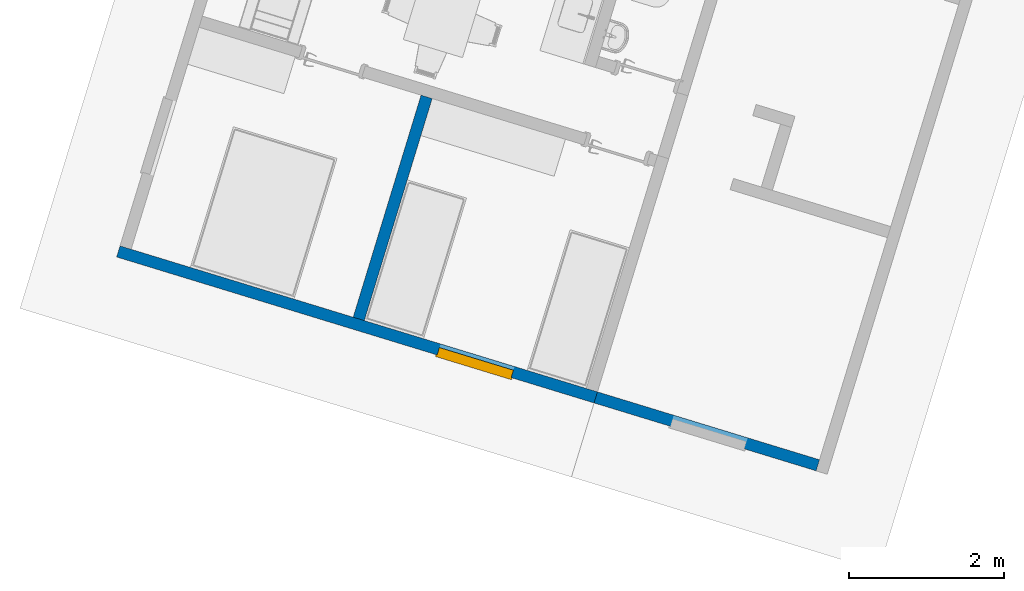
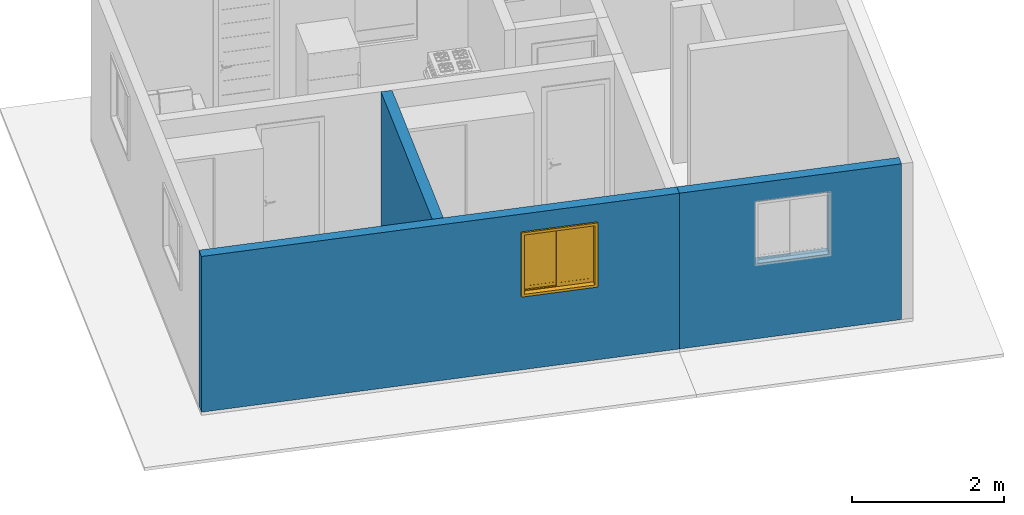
# One storey, part 3 of 13: 3 walls, 1 window, 2 openings.
"""IFC2X3 building model written with IfcOpenShell, lengths in millimetres."""

from ifc_helpers import new_model, entity, si_unit, converted_unit, derived_unit, money_unit, direction, frame, origin_with_axes, place, context, subcontext, project, spatial, open_shell, faceted_brep, surface_model, material, type_object, element, fill, save


model = new_model("IFC2X3")

# Units and contexts
model_context = context("Model", 3, precision=0.01, world=origin_with_axes(), true_north=direction((0.0, 1.0)))
body_context = subcontext(model_context, "Body", "Model", "MODEL_VIEW")
ifc_project = project(units=[si_unit("LENGTHUNIT", "METRE", prefix="MILLI"), si_unit("AREAUNIT", "SQUARE_METRE"), si_unit("VOLUMEUNIT", "CUBIC_METRE"), converted_unit("PLANEANGLEUNIT", "DEGREE", entity("IfcPlaneAngleMeasure", 0.0174532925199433), si_unit("PLANEANGLEUNIT", "RADIAN"), dimensions=[0, 0, 0, 0, 0, 0, 0]), money_unit("USD"), converted_unit("TIMEUNIT", "Year", entity("IfcTimeMeasure", 31557600.0), si_unit("TIMEUNIT", "SECOND"), dimensions=[0, 0, 1, 0, 0, 0, 0]), si_unit("MASSUNIT", "GRAM", prefix="KILO"), si_unit("THERMODYNAMICTEMPERATUREUNIT", "DEGREE_CELSIUS"), si_unit("LUMINOUSINTENSITYUNIT", "LUMEN"), si_unit("ENERGYUNIT", "JOULE", prefix="MEGA"), derived_unit("THERMALCONDUCTANCEUNIT", [(si_unit("POWERUNIT", "WATT"), 1), (si_unit("LENGTHUNIT", "METRE"), -1), (si_unit("THERMODYNAMICTEMPERATUREUNIT", "KELVIN"), -1)]), derived_unit("SPECIFICHEATCAPACITYUNIT", [(si_unit("ENERGYUNIT", "JOULE"), 1), (si_unit("MASSUNIT", "GRAM", prefix="KILO"), -1), (si_unit("THERMODYNAMICTEMPERATUREUNIT", "KELVIN"), -1)]), derived_unit("MASSDENSITYUNIT", [(si_unit("MASSUNIT", "GRAM", prefix="KILO"), 1), (si_unit("VOLUMEUNIT", "CUBIC_METRE"), -1)])], contexts=[model_context])

# Site, building, storey
site_placement = place(None, frame((0.0, 0.0, 0.0), z_axis=(0.0, 0.0, 1.0), x_axis=(0.9563047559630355, -0.2923717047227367, 0.0)))
site = spatial("IfcSite", under=ifc_project, at=site_placement, Name="Site", CompositionType="ELEMENT")
building_placement = place(site_placement, origin_with_axes())
building = spatial("IfcBuilding", under=site, at=building_placement, Name="Casa Térrea Isolada", CompositionType="ELEMENT")
storey_placement = place(building_placement, origin_with_axes())
storey = spatial("IfcBuildingStorey", under=building, at=storey_placement, Name="Terreo", CompositionType="ELEMENT", Elevation=0.0)

# Wall
ifc_material = material(Name="Bloco de Concreto - Estrutural")
wall_type = type_object("IfcWallType", Name="Bloco de Concreto - Estrutural 150", PredefinedType="NOTDEFINED")
wall_1_placement = place(storey_placement, frame((3225.002922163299, 74.99858220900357, 0.0), z_axis=(0.0, 0.0, 1.0), x_axis=(-4.610697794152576e-07, 0.9999999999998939, 0.0)))
element("IfcWall", 1, at=wall_1_placement, inside=storey, type_object=wall_type, material=ifc_material, Name="Parede 06", context=body_context, shape_type="Brep", body=[
    faceted_brep([(3075.000608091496, -75.00000000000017, 2500.0), (3075.000608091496, 75.00000000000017, 2500.0), (75.00000000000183, 74.99999999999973, 2500.0), (75.0000000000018, -74.99999999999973, 2500.0), (3075.000608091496, -75.00000000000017, 0.0), (3075.000608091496, 74.99999999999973, 0.0), (75.00000000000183, 74.99999999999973, 0.0), (75.0000000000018, -75.00000000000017, 0.0)], [[[0, 1, 2, 3]], [[1, 0, 4, 5]], [[1, 5, 6, 2]], [[7, 3, 2, 6]], [[4, 0, 3, 7]], [[5, 4, 7, 6]]]),
])

# Wall, opening
wall_2_placement = place(storey_placement, frame((9525.00288190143, 75.00148694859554, 0.0), z_axis=(0.0, 0.0, 1.0), x_axis=(-0.9999999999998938, -4.610697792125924e-07, 0.0)))
wall_2 = element("IfcWall", 2, at=wall_2_placement, inside=storey, type_object=wall_type, material=ifc_material, Name="Parede 16", context=body_context, shape_type="Brep", body=[
    faceted_brep([(3075.000000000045, 74.99999999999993, 0.0), (74.99999999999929, 75.00000000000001, 0.0), (74.99999999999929, 75.00000000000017, 2500.0), (3075.000000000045, 75.00000000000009, 2500.0), (2045.000092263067, 75.00000000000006, 1200.0), (2045.000092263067, 75.00000000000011, 2200.0), (1045.00009226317, 75.00000000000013, 2200.0), (1045.00009226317, 75.00000000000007, 1200.0), (3075.000000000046, -75.00000000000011, 0.0), (74.99999999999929, -74.99999999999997, 0.0), (74.99999999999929, -74.99999999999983, 2500.0), (3075.000000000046, -74.99999999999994, 2500.0), (2045.000092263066, -74.99999999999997, 1200.0), (2045.000092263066, -74.99999999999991, 2200.0), (1045.000092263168, -74.99999999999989, 2200.0), (1045.000092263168, -74.99999999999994, 1200.0)], [[[0, 1, 2, 3], [4, 5, 6, 7]], [[8, 9, 1, 0]], [[2, 1, 9, 10]], [[3, 2, 10, 11]], [[8, 0, 3, 11]], [[5, 4, 12, 13]], [[14, 6, 5, 13]], [[15, 7, 6, 14]], [[4, 7, 15, 12]], [[11, 10, 9, 8], [15, 14, 13, 12]]]),
])
opening_1_placement = place(wall_2_placement, frame((1545.000092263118, 0.0, 1200.0), z_axis=(0.0, 0.0, 1.0), x_axis=(1.0, 0.0, 0.0)))
element("IfcOpeningElement", 3, at=opening_1_placement, cuts=wall_2, Name="J07", context=body_context, shape_type="Brep", body=[
    faceted_brep([(514.9999999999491, 76.00141778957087, -15.00000000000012), (-514.9999999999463, 76.0014177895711, -15.00000000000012), (-514.9999999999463, 76.00141778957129, 1015.0), (514.9999999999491, 76.00141778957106, 1015.0), (514.9999999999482, 74.99999999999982, -15.00000000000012), (-514.9999999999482, 75.00000000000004, -15.00000000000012), (-514.9999999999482, 75.00000000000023, 1015.0), (514.9999999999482, 75.00000000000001, 1015.0), (-499.9999999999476, 75.00000000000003, 0.0), (-499.9999999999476, 75.00000000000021, 1000.0), (499.9999999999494, 75.00000000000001, 1000.0), (499.9999999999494, 74.99999999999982, 0.0), (-499.9999999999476, -24.99999999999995, 0.0), (-499.9999999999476, -24.9999999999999, 1000.0), (-499.9999999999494, -76.00141778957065, 1000.0), (499.9999999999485, -76.00141778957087, 1000.0), (499.9999999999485, -25.00000000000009, 1000.0), (499.9999999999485, -25.00000000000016, 0.0), (499.9999999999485, -76.00141778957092, 0.0), (-499.9999999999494, -76.0014177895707, 0.0)], [[[0, 1, 2, 3]], [[4, 5, 1, 0]], [[5, 6, 2, 1]], [[6, 7, 3, 2]], [[7, 4, 0, 3]], [[6, 5, 4, 7], [8, 9, 10, 11]], [[9, 8, 12, 13]], [[10, 9, 13, 14, 15, 16]], [[11, 10, 16, 17]], [[8, 11, 17, 18, 19, 12]], [[13, 12, 19, 14]], [[14, 19, 18, 15]], [[17, 16, 15, 18]]]),
])

# Wall, opening, window
wall_3_placement = place(storey_placement, frame((6375.002881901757, 75.00003457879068, 0.0), z_axis=(0.0, 0.0, 1.0), x_axis=(-0.9999999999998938, -4.610697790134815e-07, 0.0)))
wall_3 = element("IfcWall", 4, at=wall_3_placement, inside=storey, type_object=wall_type, material=ifc_material, Name="Parede 04", context=body_context, shape_type="Brep", body=[
    faceted_brep([(-75.00000000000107, 75.00000000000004, 0.0), (-75.00000000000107, 75.00000000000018, 2500.0), (6374.999942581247, 74.99999999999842, 2500.0), (6374.999942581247, 74.99999999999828, 0.0), (2045.000069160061, 74.99999999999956, 1200.0), (2045.000069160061, 74.9999999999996, 2200.0), (1045.000069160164, 74.99999999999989, 2200.0), (1045.000069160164, 74.99999999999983, 1200.0), (-75.00000000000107, -75.0, 0.0), (-75.00000000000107, -74.99999999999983, 2500.0), (6374.999942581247, -75.0000000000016, 2500.0), (6374.999942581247, -75.00000000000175, 0.0), (2045.00006916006, -25.00000000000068, 1200.0), (2045.00006916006, -25.0000000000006, 2200.0), (1045.000069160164, -25.00000000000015, 2200.0), (1045.000069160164, -25.0000000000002, 1200.0), (1045.000069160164, -75.00000000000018, 1200.0), (1045.000069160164, -75.00000000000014, 2200.0), (2045.00006916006, -75.00000000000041, 2200.0), (2045.00006916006, -75.00000000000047, 1200.0)], [[[0, 1, 2, 3], [4, 5, 6, 7]], [[1, 0, 8, 9]], [[1, 9, 10, 2]], [[11, 3, 2, 10]], [[8, 0, 3, 11]], [[12, 13, 5, 4]], [[13, 14, 6, 5]], [[14, 15, 7, 6]], [[15, 12, 4, 7]], [[9, 8, 11, 10], [16, 17, 18, 19]], [[13, 12, 19, 18]], [[14, 13, 18, 17]], [[15, 14, 17, 16]], [[12, 15, 16, 19]]]),
])
opening_2_placement = place(wall_3_placement, frame((1545.000069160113, 0.0, 1200.0), z_axis=(0.0, 0.0, 1.0), x_axis=(1.0, 0.0, 0.0)))
opening_2 = element("IfcOpeningElement", 5, at=opening_2_placement, cuts=wall_3, Name="J05", context=body_context, shape_type="Brep", body=[
    faceted_brep([(514.9999999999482, 76.00290473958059, -15.00000000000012), (-514.9999999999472, 76.00290473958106, -15.00000000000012), (-514.9999999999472, 76.00290473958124, 1015.0), (514.9999999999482, 76.00290473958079, 1015.0), (514.9999999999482, 74.99999999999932, -15.00000000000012), (-514.9999999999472, 74.99999999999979, -15.00000000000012), (-514.9999999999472, 74.99999999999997, 1015.0), (514.9999999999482, 74.99999999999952, 1015.0), (-499.9999999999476, 74.99999999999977, 0.0), (-499.9999999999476, 74.99999999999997, 1000.0), (499.9999999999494, 74.99999999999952, 1000.0), (499.9999999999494, 74.99999999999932, 0.0), (-499.9999999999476, -25.0000000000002, 0.0), (-499.9999999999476, -25.00000000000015, 1000.0), (-499.9999999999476, -76.0029047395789, 1000.0), (499.9999999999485, -76.00290473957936, 1000.0), (499.9999999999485, -25.0000000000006, 1000.0), (499.9999999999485, -25.00000000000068, 0.0), (499.9999999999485, -76.00290473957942, 0.0), (-499.9999999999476, -76.00290473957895, 0.0)], [[[0, 1, 2, 3]], [[4, 5, 1, 0]], [[5, 6, 2, 1]], [[6, 7, 3, 2]], [[7, 4, 0, 3]], [[6, 5, 4, 7], [8, 9, 10, 11]], [[9, 8, 12, 13]], [[10, 9, 13, 14, 15, 16]], [[11, 10, 16, 17]], [[8, 11, 17, 18, 19, 12]], [[13, 12, 19, 14]], [[14, 19, 18, 15]], [[17, 16, 15, 18]]]),
])
window_style = type_object("IfcWindowStyle", Name="Janela 26", ConstructionType="NOTDEFINED", OperationType="DOUBLE_PANEL_VERTICAL", ParameterTakesPrecedence=False, Sizeable=False)
window_placement = place(opening_2_placement, frame((499.9999999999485, 0.0, 0.0), z_axis=(0.0, 0.0, 1.0), x_axis=(-1.0, 0.0, 0.0)))
window = element("IfcWindow", 6, at=window_placement, inside=storey, type_object=window_style, Name="J05", OverallHeight=1000.0, OverallWidth=1000.0, context=body_context, shape_type="SurfaceModel", body=[
    faceted_brep([(0.0, -24.99999999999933, 0.0), (999.9999999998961, -24.99999999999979, 0.0), (999.9999999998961, -74.99999999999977, 0.0), (0.0, -74.99999999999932, 0.0), (0.0, -24.99999999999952, 1000.0), (999.9999999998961, -24.99999999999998, 1000.0), (25.00000000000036, -24.99999999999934, 24.99999999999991), (974.9999999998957, -24.99999999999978, 24.99999999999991), (974.9999999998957, -24.99999999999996, 975.0000000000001), (25.00000000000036, -24.99999999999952, 975.0000000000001), (999.9999999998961, -74.99999999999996, 1000.0), (0.0, -74.9999999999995, 1000.0), (24.99999999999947, -74.99999999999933, 24.99999999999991), (24.99999999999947, -74.99999999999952, 975.0000000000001), (974.9999999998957, -74.99999999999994, 975.0000000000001), (974.9999999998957, -74.99999999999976, 24.99999999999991)], [[[0, 1, 2, 3]], [[0, 4, 5, 1], [6, 7, 8, 9]], [[1, 5, 10, 2]], [[3, 2, 10, 11], [12, 13, 14, 15]], [[4, 0, 3, 11]], [[5, 4, 11, 10]], [[7, 6, 12, 15]], [[8, 7, 15, 14]], [[9, 8, 14, 13]], [[6, 9, 13, 12]]]),
    faceted_brep([(-15.00000000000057, -99.99999999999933, -15.00000000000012), (-14.99999999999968, -74.99999999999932, -15.00000000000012), (24.99999999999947, -74.99999999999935, 24.99999999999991), (24.99999999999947, -99.99999999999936, 24.99999999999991), (-15.00000000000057, -99.99999999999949, 1015.0), (-14.99999999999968, -74.9999999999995, 1015.0), (24.99999999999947, -74.99999999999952, 975.0000000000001), (24.99999999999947, -99.99999999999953, 975.0000000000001)], [[[0, 1, 2, 3]], [[4, 5, 1, 0]], [[1, 5, 6, 2]], [[3, 2, 6, 7]], [[0, 3, 7, 4]], [[7, 6, 5, 4]]]),
    faceted_brep([(1014.999999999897, -99.99999999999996, 1015.0), (1014.999999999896, -74.99999999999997, 1015.0), (974.9999999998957, -74.99999999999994, 975.0000000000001), (974.9999999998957, -99.99999999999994, 975.0000000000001), (1014.999999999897, -99.9999999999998, -15.00000000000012), (1014.999999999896, -74.99999999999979, -15.00000000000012), (974.9999999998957, -74.99999999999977, 24.99999999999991), (974.9999999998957, -99.99999999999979, 24.99999999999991)], [[[0, 1, 2, 3]], [[4, 5, 1, 0]], [[1, 5, 6, 2]], [[3, 2, 6, 7]], [[0, 3, 7, 4]], [[7, 6, 5, 4]]]),
    faceted_brep([(1014.999999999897, -99.9999999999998, -15.00000000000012), (1014.999999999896, -74.99999999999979, -15.00000000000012), (974.9999999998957, -74.99999999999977, 24.99999999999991), (974.9999999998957, -99.99999999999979, 24.99999999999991), (-15.00000000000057, -99.99999999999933, -15.00000000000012), (-14.99999999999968, -74.99999999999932, -15.00000000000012), (24.99999999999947, -74.99999999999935, 24.99999999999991), (24.99999999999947, -99.99999999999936, 24.99999999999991)], [[[0, 1, 2, 3]], [[4, 5, 1, 0]], [[1, 5, 6, 2]], [[3, 2, 6, 7]], [[0, 3, 7, 4]], [[7, 6, 5, 4]]]),
    faceted_brep([(-15.00000000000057, -99.99999999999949, 1015.0), (-14.99999999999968, -74.9999999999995, 1015.0), (24.99999999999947, -74.99999999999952, 975.0000000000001), (24.99999999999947, -99.99999999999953, 975.0000000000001), (1014.999999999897, -99.99999999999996, 1015.0), (1014.999999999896, -74.99999999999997, 1015.0), (974.9999999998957, -74.99999999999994, 975.0000000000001), (974.9999999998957, -99.99999999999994, 975.0000000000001)], [[[0, 1, 2, 3]], [[4, 5, 1, 0]], [[1, 5, 6, 2]], [[3, 2, 6, 7]], [[0, 3, 7, 4]], [[7, 6, 5, 4]]]),
    faceted_brep([(35.00000000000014, -24.99999999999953, 964.9999999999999), (35.00000000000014, 25.00000000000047, 964.9999999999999), (0.0, 25.00000000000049, 964.9999999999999), (0.0, -24.99999999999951, 964.9999999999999), (35.00000000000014, -24.99999999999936, 34.99999999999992), (35.00000000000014, 25.00000000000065, 34.99999999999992), (0.0, 25.00000000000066, 34.99999999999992), (0.0, -24.99999999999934, 34.99999999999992)], [[[0, 1, 2, 3]], [[4, 5, 1, 0]], [[1, 5, 6, 2]], [[3, 2, 6, 7]], [[0, 3, 7, 4]], [[7, 6, 5, 4]]]),
    faceted_brep([(964.9999999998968, -24.99999999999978, 34.99999999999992), (964.9999999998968, 25.00000000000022, 34.99999999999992), (999.9999999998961, 25.0000000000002, 34.99999999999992), (999.9999999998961, -24.9999999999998, 34.99999999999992), (964.9999999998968, -24.99999999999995, 964.9999999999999), (964.9999999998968, 25.00000000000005, 964.9999999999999), (999.9999999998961, 25.00000000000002, 964.9999999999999), (999.9999999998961, -24.99999999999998, 964.9999999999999)], [[[0, 1, 2, 3]], [[4, 5, 1, 0]], [[1, 5, 6, 2]], [[3, 2, 6, 7]], [[0, 3, 7, 4]], [[7, 6, 5, 4]]]),
    faceted_brep([(35.00000000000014, -24.99999999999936, 34.99999999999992), (35.00000000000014, 25.00000000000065, 34.99999999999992), (0.0, 25.00000000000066, 34.99999999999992), (0.0, -24.99999999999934, 34.99999999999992), (964.9999999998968, -24.99999999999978, 34.99999999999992), (964.9999999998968, 25.00000000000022, 34.99999999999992), (999.9999999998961, 25.0000000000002, 34.99999999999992), (999.9999999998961, 25.0000000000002, 0.0), (0.0, 25.00000000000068, 0.0), (0.0, -24.99999999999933, 0.0), (999.9999999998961, -24.99999999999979, 0.0), (999.9999999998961, -24.9999999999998, 34.99999999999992)], [[[0, 1, 2, 3]], [[4, 5, 1, 0]], [[1, 5, 6, 7, 8, 2]], [[3, 2, 8, 9]], [[0, 3, 9, 10, 11, 4]], [[11, 6, 5, 4]], [[10, 7, 6, 11]], [[9, 8, 7, 10]]]),
    faceted_brep([(964.9999999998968, -24.99999999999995, 964.9999999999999), (964.9999999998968, 25.00000000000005, 964.9999999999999), (999.9999999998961, 25.00000000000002, 964.9999999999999), (999.9999999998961, -24.99999999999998, 964.9999999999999), (35.00000000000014, -24.99999999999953, 964.9999999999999), (35.00000000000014, 25.00000000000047, 964.9999999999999), (0.0, 25.00000000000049, 964.9999999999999), (0.0, 25.00000000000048, 1000.0), (999.9999999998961, 25.00000000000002, 1000.0), (999.9999999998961, -24.99999999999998, 1000.0), (0.0, -24.99999999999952, 1000.0), (0.0, -24.99999999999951, 964.9999999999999)], [[[0, 1, 2, 3]], [[4, 5, 1, 0]], [[1, 5, 6, 7, 8, 2]], [[3, 2, 8, 9]], [[0, 3, 9, 10, 11, 4]], [[11, 6, 5, 4]], [[10, 7, 6, 11]], [[9, 8, 7, 10]]]),
    faceted_brep([(524.9999999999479, -24.99999999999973, 915.0), (524.9999999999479, 0.0, 915.0), (474.9999999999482, 0.0, 915.0), (474.9999999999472, -24.99999999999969, 915.0), (524.9999999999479, -24.99999999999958, 84.99999999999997), (524.9999999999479, 0.0, 84.99999999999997), (474.9999999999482, 0.0, 84.99999999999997), (474.9999999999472, -24.99999999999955, 84.99999999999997)], [[[0, 1, 2, 3]], [[4, 5, 1, 0]], [[1, 5, 6, 2]], [[3, 2, 6, 7]], [[0, 3, 7, 4]], [[7, 6, 5, 4]]]),
    faceted_brep([(914.999999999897, -24.99999999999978, 84.99999999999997), (914.9999999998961, 0.0, 84.99999999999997), (964.9999999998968, 0.0, 84.99999999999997), (964.9999999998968, -24.9999999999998, 84.99999999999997), (914.999999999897, -24.99999999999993, 915.0), (914.9999999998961, 0.0, 915.0), (964.9999999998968, 0.0, 915.0), (964.9999999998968, -24.99999999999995, 915.0)], [[[0, 1, 2, 3]], [[4, 5, 1, 0]], [[1, 5, 6, 2]], [[3, 2, 6, 7]], [[0, 3, 7, 4]], [[7, 6, 5, 4]]]),
    faceted_brep([(964.9999999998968, -24.99999999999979, 34.99999999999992), (964.9999999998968, 0.0, 34.99999999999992), (964.9999999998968, 0.0, 84.99999999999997), (964.9999999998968, -24.9999999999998, 84.99999999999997), (474.9999999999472, -24.99999999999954, 34.99999999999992), (474.9999999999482, 0.0, 34.99999999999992), (474.9999999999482, 0.0, 84.99999999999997), (524.9999999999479, 0.0, 84.99999999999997), (914.9999999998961, 0.0, 84.99999999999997), (914.999999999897, -24.99999999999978, 84.99999999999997), (524.9999999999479, -24.99999999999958, 84.99999999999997), (474.9999999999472, -24.99999999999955, 84.99999999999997)], [[[0, 1, 2, 3]], [[4, 5, 1, 0]], [[1, 5, 6, 7, 8, 2]], [[3, 2, 8, 9]], [[0, 3, 9, 10, 11, 4]], [[11, 6, 5, 4]], [[10, 7, 6, 11]], [[9, 8, 7, 10]]]),
    faceted_brep([(474.9999999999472, -24.99999999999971, 964.9999999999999), (474.9999999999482, 0.0, 964.9999999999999), (474.9999999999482, 0.0, 915.0), (474.9999999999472, -24.99999999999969, 915.0), (964.9999999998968, -24.99999999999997, 964.9999999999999), (964.9999999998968, 0.0, 964.9999999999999), (964.9999999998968, 0.0, 915.0), (914.9999999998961, 0.0, 915.0), (524.9999999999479, 0.0, 915.0), (524.9999999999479, -24.99999999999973, 915.0), (914.999999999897, -24.99999999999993, 915.0), (964.9999999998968, -24.99999999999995, 915.0)], [[[0, 1, 2, 3]], [[4, 5, 1, 0]], [[1, 5, 6, 7, 8, 2]], [[3, 2, 8, 9]], [[0, 3, 9, 10, 11, 4]], [[11, 6, 5, 4]], [[10, 7, 6, 11]], [[9, 8, 7, 10]]]),
    surface_model("IfcShellBasedSurfaceModel", [(524.9999999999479, -22.49999999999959, 84.99999999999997), (914.999999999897, -22.49999999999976, 84.99999999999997), (914.999999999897, -22.49999999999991, 915.0), (524.9999999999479, -22.49999999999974, 915.0)], [open_shell([[[0, 1, 2, 3]]])]),
    surface_model("IfcShellBasedSurfaceModel", [(524.9999999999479, -2.499999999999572, 84.99999999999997), (524.9999999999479, -2.499999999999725, 915.0), (914.9999999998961, -2.499999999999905, 915.0), (914.9999999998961, -2.499999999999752, 84.99999999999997)], [open_shell([[[0, 1, 2, 3]]])]),
    faceted_brep([(84.99999999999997, 0.0, 915.0), (84.99999999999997, 25.00000000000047, 915.0), (35.00000000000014, 25.00000000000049, 915.0), (35.00000000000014, 0.0, 915.0), (84.99999999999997, 0.0, 84.99999999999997), (84.99999999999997, 25.00000000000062, 84.99999999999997), (35.00000000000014, 25.00000000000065, 84.99999999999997), (35.00000000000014, 0.0, 84.99999999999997)], [[[0, 1, 2, 3]], [[4, 5, 1, 0]], [[1, 5, 6, 2]], [[3, 2, 6, 7]], [[0, 3, 7, 4]], [[7, 6, 5, 4]]]),
    faceted_brep([(474.9999999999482, 0.0, 84.99999999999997), (474.9999999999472, 25.00000000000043, 84.99999999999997), (524.9999999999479, 25.0000000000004, 84.99999999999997), (524.9999999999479, 0.0, 84.99999999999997), (474.9999999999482, 0.0, 915.0), (474.9999999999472, 25.00000000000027, 915.0), (524.9999999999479, 25.00000000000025, 915.0), (524.9999999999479, 0.0, 915.0)], [[[0, 1, 2, 3]], [[4, 5, 1, 0]], [[1, 5, 6, 2]], [[3, 2, 6, 7]], [[0, 3, 7, 4]], [[7, 6, 5, 4]]]),
    faceted_brep([(524.9999999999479, 0.0, 34.99999999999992), (524.9999999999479, 25.00000000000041, 34.99999999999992), (524.9999999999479, 25.0000000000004, 84.99999999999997), (524.9999999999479, 0.0, 84.99999999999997), (35.00000000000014, 0.0, 34.99999999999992), (35.00000000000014, 25.00000000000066, 34.99999999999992), (35.00000000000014, 25.00000000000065, 84.99999999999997), (84.99999999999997, 25.00000000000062, 84.99999999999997), (474.9999999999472, 25.00000000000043, 84.99999999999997), (474.9999999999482, 0.0, 84.99999999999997), (84.99999999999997, 0.0, 84.99999999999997), (35.00000000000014, 0.0, 84.99999999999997)], [[[0, 1, 2, 3]], [[4, 5, 1, 0]], [[1, 5, 6, 7, 8, 2]], [[3, 2, 8, 9]], [[0, 3, 9, 10, 11, 4]], [[11, 6, 5, 4]], [[10, 7, 6, 11]], [[9, 8, 7, 10]]]),
    faceted_brep([(35.00000000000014, 0.0, 964.9999999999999), (35.00000000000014, 25.00000000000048, 964.9999999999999), (35.00000000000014, 25.00000000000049, 915.0), (35.00000000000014, 0.0, 915.0), (524.9999999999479, 0.0, 964.9999999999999), (524.9999999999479, 25.00000000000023, 964.9999999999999), (524.9999999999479, 25.00000000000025, 915.0), (474.9999999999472, 25.00000000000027, 915.0), (84.99999999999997, 25.00000000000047, 915.0), (84.99999999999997, 0.0, 915.0), (474.9999999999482, 0.0, 915.0), (524.9999999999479, 0.0, 915.0)], [[[0, 1, 2, 3]], [[4, 5, 1, 0]], [[1, 5, 6, 7, 8, 2]], [[3, 2, 8, 9]], [[0, 3, 9, 10, 11, 4]], [[11, 6, 5, 4]], [[10, 7, 6, 11]], [[9, 8, 7, 10]]]),
    surface_model("IfcShellBasedSurfaceModel", [(84.99999999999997, 2.500000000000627, 84.99999999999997), (474.9999999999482, 2.500000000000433, 84.99999999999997), (474.9999999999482, 2.50000000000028, 915.0), (84.99999999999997, 2.500000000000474, 915.0)], [open_shell([[[0, 1, 2, 3]]])]),
    surface_model("IfcShellBasedSurfaceModel", [(84.99999999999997, 22.50000000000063, 84.99999999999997), (84.99999999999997, 22.50000000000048, 915.0), (474.9999999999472, 22.5000000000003, 915.0), (474.9999999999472, 22.50000000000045, 84.99999999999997)], [open_shell([[[0, 1, 2, 3]]])]),
])
fill(opening_2, window)

save(model, "model.ifc")
